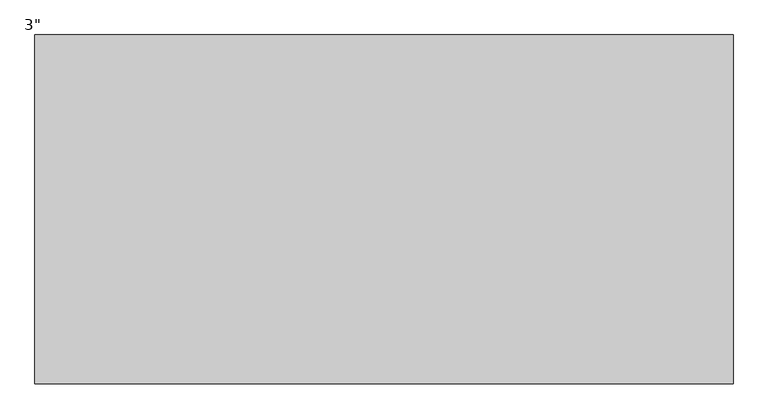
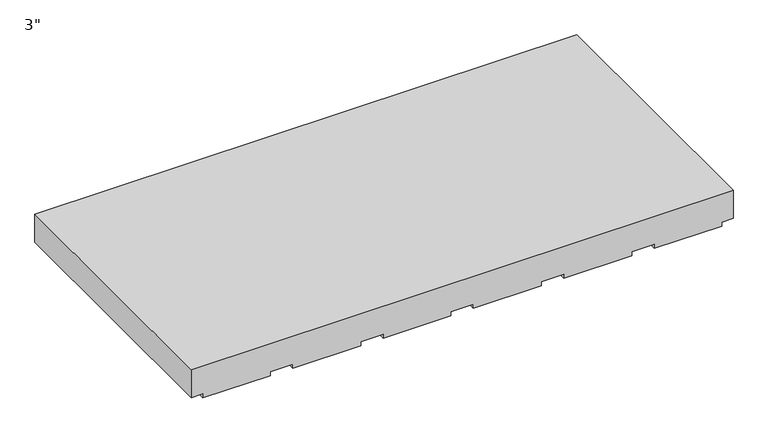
"""IFC4 building model written with IfcOpenShell, lengths in millimetres: proxy geometry."""

from ifc_helpers import new_model, si_unit, frame, origin, place, context, project, spatial, polyline, outline, extrude, source, transform, mapped, element, save


def proxy_b68172d9(model_context):
    return source(origin(), model_context, "Body", "SweptSolid", [
        extrude(outline(polyline([(0.0, 431.8), (0.0, 584.2), (9.525, 584.2), (9.525, 609.6), (76.2, 609.6), (76.2, -609.6), (9.525, -609.6), (9.525, -584.2), (0.0, -584.2), (0.0, -431.8), (9.525, -431.8), (9.525, -381.0), (0.0, -381.0), (0.0, -228.6), (9.525, -228.6), (9.525, -177.8), (0.0, -177.8), (0.0, -25.4), (9.525, -25.4), (9.525, 25.4), (0.0, 25.4), (0.0, 177.8), (9.525, 177.8), (9.525, 228.6), (0.0, 228.6), (0.0, 381.0), (9.525, 381.0), (9.525, 431.8), (0.0, 431.8)])), frame((0.0, -304.8, 0.0), z_axis=(0.0, 1.0, 0.0), x_axis=(0.0, 0.0, 1.0)), (0.0, 0.0, 1.0), 609.6),
    ])


if __name__ == "__main__":
    model = new_model("IFC4")
    model_context = context("Model", 3, world=origin())
    ifc_project = project(units=[si_unit("LENGTHUNIT", "METRE", prefix="MILLI")], contexts=[model_context])
    site = spatial("IfcSite", under=ifc_project)
    building = spatial("IfcBuilding", under=site)
    placement = place(None, origin())
    proxy_shape = proxy_b68172d9(model_context)
    element("IfcBuildingElementProxy", 1, Name="Durabond Generic Model Insulite Select Extruded Insulation Board : 3\"", ObjectType="Durabond Generic Model Insulite Select Extruded Insulation Board : 3\"", at=placement, inside=building, context=model_context, shape_type="MappedRepresentation", body=[
        mapped(proxy_shape, transform((0.0, 0.0, 0.0), x_axis=(1.0, 0.0, 0.0), y_axis=(0.0, 1.0, 0.0), z_axis=(0.0, 0.0, 1.0))),
    ])
    save(model, "model.ifc")
